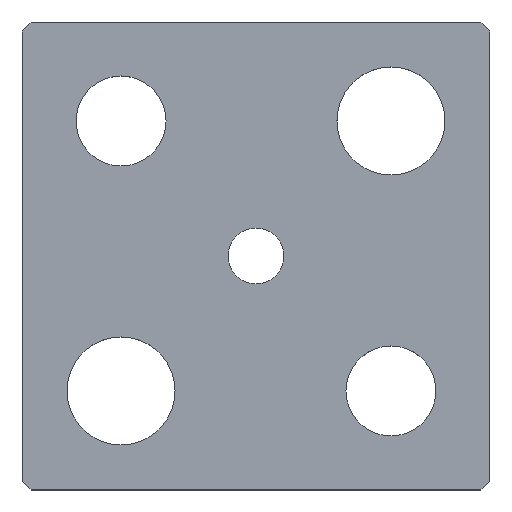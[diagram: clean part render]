
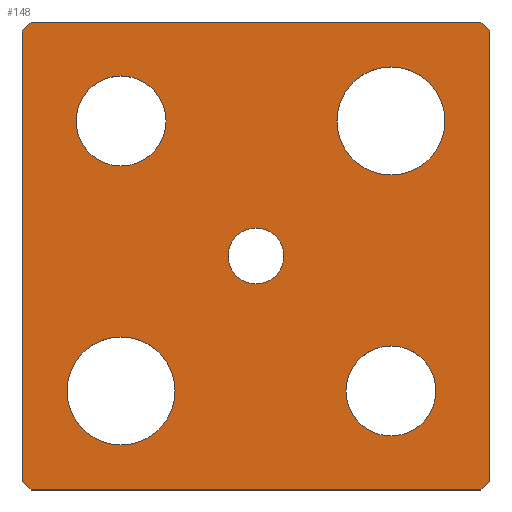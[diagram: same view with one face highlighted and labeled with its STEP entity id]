
A CAD part, top view. The second image highlights one B-rep face of the part: STEP entity #148.
In plain terms, the highlighted planar face has unit normal (0, 0, 1).
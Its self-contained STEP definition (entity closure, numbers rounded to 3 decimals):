
#117=CIRCLE('',#503,3.1);
#118=CIRCLE('',#504,3.1);
#119=CIRCLE('',#505,5.);
#120=CIRCLE('',#506,5.);
#121=CIRCLE('',#507,6.);
#122=CIRCLE('',#508,6.);
#123=CIRCLE('',#509,6.);
#124=CIRCLE('',#510,6.);
#125=CIRCLE('',#511,5.);
#126=CIRCLE('',#512,5.);
#133=FACE_BOUND('',#201,.T.);
#134=FACE_BOUND('',#202,.T.);
#135=FACE_BOUND('',#203,.T.);
#136=FACE_BOUND('',#204,.T.);
#137=FACE_BOUND('',#205,.T.);
#138=FACE_BOUND('',#206,.T.);
#148=ADVANCED_FACE('',(#133,#134,#135,#136,#137,#138),#168,.T.);
#168=PLANE('',#513);
#201=EDGE_LOOP('',(#267,#268,#269,#270,#271,#272,#273,#274));
#202=EDGE_LOOP('',(#275,#276));
#203=EDGE_LOOP('',(#277,#278));
#204=EDGE_LOOP('',(#279,#280));
#205=EDGE_LOOP('',(#281,#282));
#206=EDGE_LOOP('',(#283,#284));
#267=ORIENTED_EDGE('',*,*,#362,.T.);
#268=ORIENTED_EDGE('',*,*,#366,.T.);
#269=ORIENTED_EDGE('',*,*,#369,.T.);
#270=ORIENTED_EDGE('',*,*,#372,.T.);
#271=ORIENTED_EDGE('',*,*,#375,.T.);
#272=ORIENTED_EDGE('',*,*,#378,.T.);
#273=ORIENTED_EDGE('',*,*,#381,.T.);
#274=ORIENTED_EDGE('',*,*,#384,.T.);
#275=ORIENTED_EDGE('',*,*,#395,.T.);
#276=ORIENTED_EDGE('',*,*,#396,.T.);
#277=ORIENTED_EDGE('',*,*,#397,.T.);
#278=ORIENTED_EDGE('',*,*,#398,.T.);
#279=ORIENTED_EDGE('',*,*,#399,.T.);
#280=ORIENTED_EDGE('',*,*,#400,.T.);
#281=ORIENTED_EDGE('',*,*,#401,.T.);
#282=ORIENTED_EDGE('',*,*,#402,.T.);
#283=ORIENTED_EDGE('',*,*,#403,.T.);
#284=ORIENTED_EDGE('',*,*,#404,.T.);
#326=VERTEX_POINT('',#643);
#327=VERTEX_POINT('',#645);
#330=VERTEX_POINT('',#652);
#332=VERTEX_POINT('',#658);
#334=VERTEX_POINT('',#664);
#336=VERTEX_POINT('',#670);
#338=VERTEX_POINT('',#676);
#340=VERTEX_POINT('',#682);
#351=VERTEX_POINT('',#711);
#352=VERTEX_POINT('',#712);
#353=VERTEX_POINT('',#715);
#354=VERTEX_POINT('',#716);
#355=VERTEX_POINT('',#719);
#356=VERTEX_POINT('',#720);
#357=VERTEX_POINT('',#723);
#358=VERTEX_POINT('',#724);
#359=VERTEX_POINT('',#727);
#360=VERTEX_POINT('',#728);
#362=EDGE_CURVE('',#327,#326,#416,.T.);
#366=EDGE_CURVE('',#326,#330,#420,.T.);
#369=EDGE_CURVE('',#330,#332,#423,.T.);
#372=EDGE_CURVE('',#332,#334,#426,.T.);
#375=EDGE_CURVE('',#334,#336,#429,.T.);
#378=EDGE_CURVE('',#336,#338,#432,.T.);
#381=EDGE_CURVE('',#338,#340,#435,.T.);
#384=EDGE_CURVE('',#340,#327,#438,.T.);
#395=EDGE_CURVE('',#351,#352,#117,.T.);
#396=EDGE_CURVE('',#352,#351,#118,.T.);
#397=EDGE_CURVE('',#353,#354,#119,.T.);
#398=EDGE_CURVE('',#354,#353,#120,.T.);
#399=EDGE_CURVE('',#355,#356,#121,.T.);
#400=EDGE_CURVE('',#356,#355,#122,.T.);
#401=EDGE_CURVE('',#357,#358,#123,.T.);
#402=EDGE_CURVE('',#358,#357,#124,.T.);
#403=EDGE_CURVE('',#359,#360,#125,.T.);
#404=EDGE_CURVE('',#360,#359,#126,.T.);
#416=LINE('',#644,#450);
#420=LINE('',#653,#454);
#423=LINE('',#659,#457);
#426=LINE('',#665,#460);
#429=LINE('',#671,#463);
#432=LINE('',#677,#466);
#435=LINE('',#683,#469);
#438=LINE('',#687,#472);
#450=VECTOR('',#527,1.);
#454=VECTOR('',#533,1.);
#457=VECTOR('',#538,1.);
#460=VECTOR('',#543,1.);
#463=VECTOR('',#548,1.);
#466=VECTOR('',#553,1.);
#469=VECTOR('',#558,1.);
#472=VECTOR('',#563,1.);
#503=AXIS2_PLACEMENT_3D('',#710,#588,#589);
#504=AXIS2_PLACEMENT_3D('',#713,#590,#591);
#505=AXIS2_PLACEMENT_3D('',#714,#592,#593);
#506=AXIS2_PLACEMENT_3D('',#717,#594,#595);
#507=AXIS2_PLACEMENT_3D('',#718,#596,#597);
#508=AXIS2_PLACEMENT_3D('',#721,#598,#599);
#509=AXIS2_PLACEMENT_3D('',#722,#600,#601);
#510=AXIS2_PLACEMENT_3D('',#725,#602,#603);
#511=AXIS2_PLACEMENT_3D('',#726,#604,#605);
#512=AXIS2_PLACEMENT_3D('',#729,#606,#607);
#513=AXIS2_PLACEMENT_3D('',#730,#608,#609);
#527=DIRECTION('',(0.707,-0.707,0.));
#533=DIRECTION('',(1.,0.,0.));
#538=DIRECTION('',(0.707,0.707,0.));
#543=DIRECTION('',(0.,1.,0.));
#548=DIRECTION('',(-0.707,0.707,0.));
#553=DIRECTION('',(-1.,0.,0.));
#558=DIRECTION('',(-0.707,-0.707,0.));
#563=DIRECTION('',(0.,-1.,0.));
#588=DIRECTION('',(0.,0.,-1.));
#589=DIRECTION('',(-1.,0.,0.));
#590=DIRECTION('',(0.,0.,-1.));
#591=DIRECTION('',(1.,0.,0.));
#592=DIRECTION('',(0.,0.,-1.));
#593=DIRECTION('',(-1.,0.,0.));
#594=DIRECTION('',(0.,0.,-1.));
#595=DIRECTION('',(1.,0.,0.));
#596=DIRECTION('',(0.,0.,-1.));
#597=DIRECTION('',(-1.,0.,0.));
#598=DIRECTION('',(0.,0.,-1.));
#599=DIRECTION('',(1.,0.,0.));
#600=DIRECTION('',(0.,0.,-1.));
#601=DIRECTION('',(-1.,0.,0.));
#602=DIRECTION('',(0.,0.,-1.));
#603=DIRECTION('',(1.,0.,0.));
#604=DIRECTION('',(0.,0.,-1.));
#605=DIRECTION('',(-1.,0.,0.));
#606=DIRECTION('',(0.,0.,-1.));
#607=DIRECTION('',(1.,0.,0.));
#608=DIRECTION('',(0.,0.,1.));
#609=DIRECTION('',(0.,-1.,0.));
#643=CARTESIAN_POINT('',(-25.,-26.,5.));
#644=CARTESIAN_POINT('',(-26.,-25.,5.));
#645=CARTESIAN_POINT('',(-26.,-25.,5.));
#652=CARTESIAN_POINT('',(25.,-26.,5.));
#653=CARTESIAN_POINT('',(-25.,-26.,5.));
#658=CARTESIAN_POINT('',(26.,-25.,5.));
#659=CARTESIAN_POINT('',(26.,-25.,5.));
#664=CARTESIAN_POINT('',(26.,25.,5.));
#665=CARTESIAN_POINT('',(26.,25.,5.));
#670=CARTESIAN_POINT('',(25.,26.,5.));
#671=CARTESIAN_POINT('',(25.,26.,5.));
#676=CARTESIAN_POINT('',(-25.,26.,5.));
#677=CARTESIAN_POINT('',(-25.,26.,5.));
#682=CARTESIAN_POINT('',(-26.,25.,5.));
#683=CARTESIAN_POINT('',(-26.,25.,5.));
#687=CARTESIAN_POINT('',(-26.,25.,5.));
#710=CARTESIAN_POINT('',(0.,0.,5.));
#711=CARTESIAN_POINT('',(0.,3.1,5.));
#712=CARTESIAN_POINT('',(0.,-3.1,5.));
#713=CARTESIAN_POINT('',(0.,0.,5.));
#714=CARTESIAN_POINT('',(-15.,15.,5.));
#715=CARTESIAN_POINT('',(-15.,20.,5.));
#716=CARTESIAN_POINT('',(-15.,10.,5.));
#717=CARTESIAN_POINT('',(-15.,15.,5.));
#718=CARTESIAN_POINT('',(15.,15.,5.));
#719=CARTESIAN_POINT('',(15.,21.,5.));
#720=CARTESIAN_POINT('',(15.,9.,5.));
#721=CARTESIAN_POINT('',(15.,15.,5.));
#722=CARTESIAN_POINT('',(-15.,-15.,5.));
#723=CARTESIAN_POINT('',(-15.,-9.,5.));
#724=CARTESIAN_POINT('',(-15.,-21.,5.));
#725=CARTESIAN_POINT('',(-15.,-15.,5.));
#726=CARTESIAN_POINT('',(15.,-15.,5.));
#727=CARTESIAN_POINT('',(15.,-10.,5.));
#728=CARTESIAN_POINT('',(15.,-20.,5.));
#729=CARTESIAN_POINT('',(15.,-15.,5.));
#730=CARTESIAN_POINT('',(-26.,-25.,5.));
